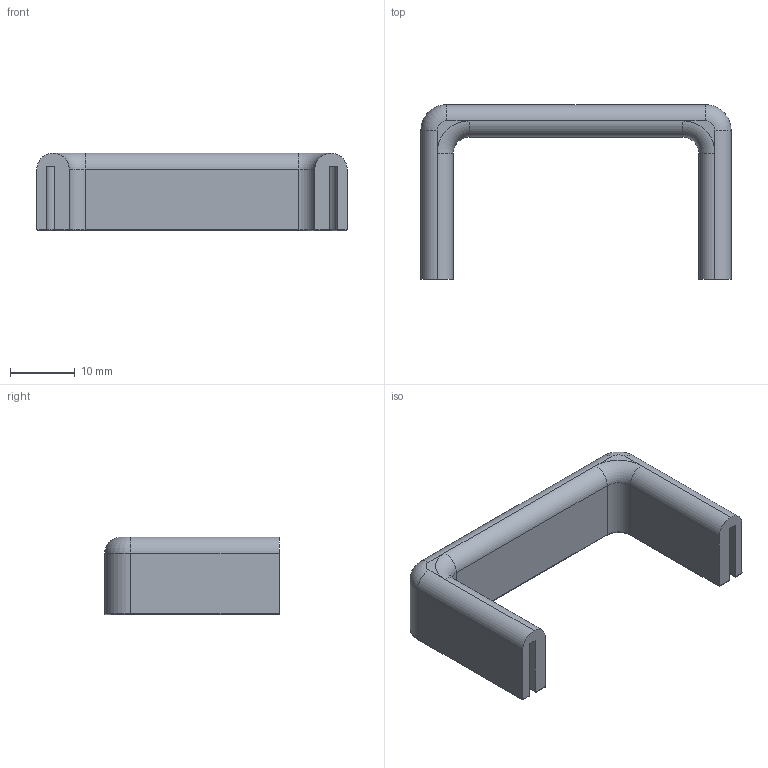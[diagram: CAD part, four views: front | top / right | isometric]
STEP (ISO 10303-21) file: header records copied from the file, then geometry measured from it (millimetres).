
FILE_DESCRIPTION (( 'STEP AP214' ), '1' );
FILE_NAME ('1.1078 Päätysuoja johtokourulle 45.STEP', '2026-03-04T12:47:58', ( '' ), ( '' ), 'SwSTEP 2.0', 'SolidWorks 2025', '' );
FILE_SCHEMA (( 'AUTOMOTIVE_DESIGN' ));
Length unit declared in the file: millimetre
Products named in the file (1): 1.1078 Päätysuoja johtokourulle 45
Bounding box: 48 x 27 x 12 mm (x, y, z)
Volume: 3815.5 mm3; surface area: 4725.5 mm2
Topology: 1 solids, 1 shells, 69 faces, 161 edges, 94 vertices
Faces by surface type: cylinder 34, plane 23, torus 12
Entity records: 1954 total; most frequent: CARTESIAN_POINT 361, DIRECTION 345, ORIENTED_EDGE 322, EDGE_CURVE 161, AXIS2_PLACEMENT_3D 126, VERTEX_POINT 94, LINE 93, VECTOR 93
